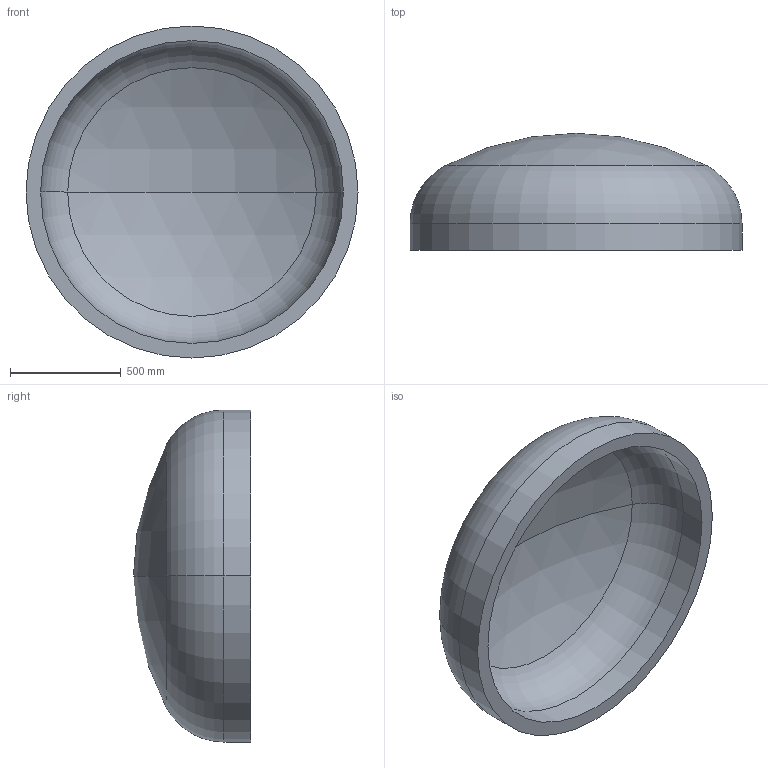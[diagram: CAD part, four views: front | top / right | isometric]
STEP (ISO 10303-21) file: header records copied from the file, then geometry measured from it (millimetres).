
FILE_DESCRIPTION (( 'STEP AP203' ), '1' );
FILE_NAME ('DIN 28013 Korbbogenform_-_Boden DIN 28013 - 1500 x 120 - I - s=66.step', '2016-07-01T10:51:58', ( '' ), ( '' ), 'SwSTEP 2.0', 'SolidWorks 2013', '' );
FILE_SCHEMA (( 'CONFIG_CONTROL_DESIGN' ));
Length unit declared in the file: millimetre
Products named in the file (1): DIN 28013 Korbbogenform_-_Boden DIN 28013 - 1500 x 120 - I - s=66
Bounding box: 1500 x 528.8 x 1500 mm (x, y, z)
Volume: 188155837.4 mm3; surface area: 6008146.6 mm2
Topology: 1 solids, 1 shells, 13 faces, 24 edges, 14 vertices
Faces by surface type: torus 4, cylinder 4, sphere 4, plane 1
Entity records: 407 total; most frequent: DIRECTION 72, CARTESIAN_POINT 52, ORIENTED_EDGE 48, AXIS2_PLACEMENT_3D 34, EDGE_CURVE 24, CIRCLE 20, EDGE_LOOP 14, VERTEX_POINT 14
